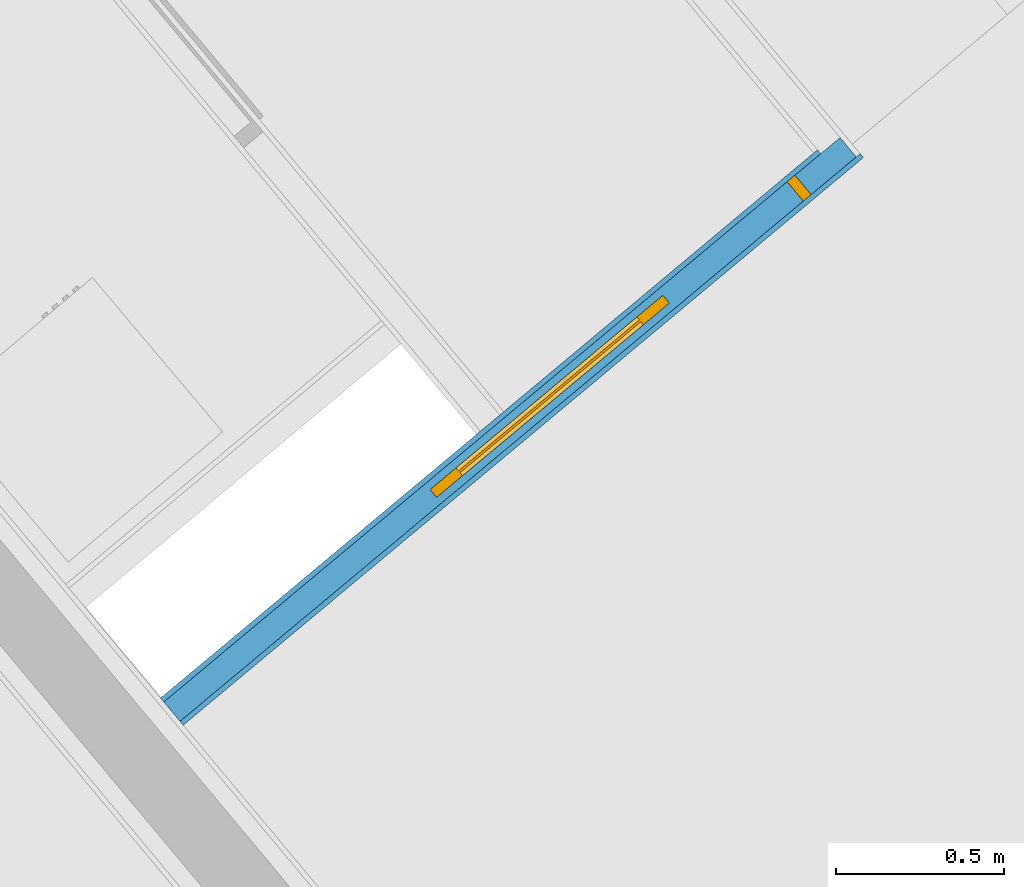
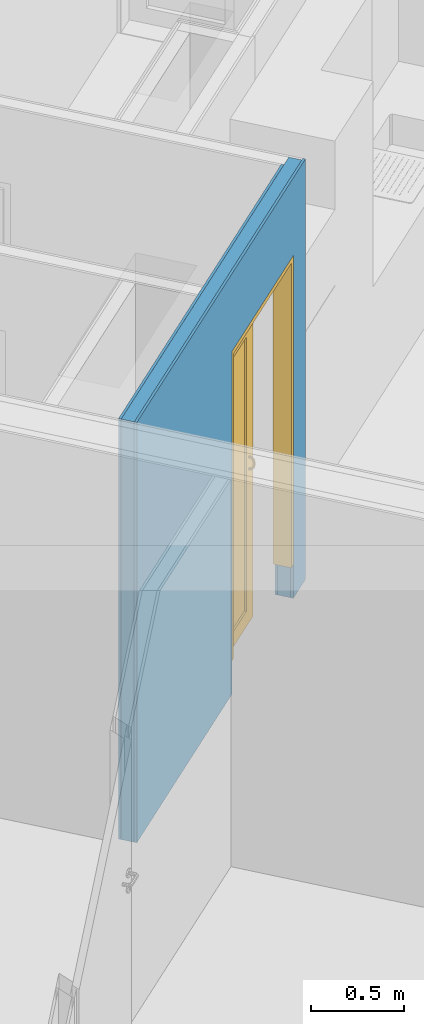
# One storey, part 14 of 53: 3 building element parts, 1 door, 1 opening, 1 element without a shape of its own.
"""IFC4 building model written with IfcOpenShell, lengths in metres."""

from ifc_helpers import new_model, entity, si_unit, converted_unit, derived_unit, direction, frame, origin_with_axes, place, context, subcontext, project, spatial, polygons, source, transform, mapped, material, type_object, element, fill, aggregate, save


model = new_model("IFC4")

# Units and contexts
model_context = context("Model", 3, precision=1e-05, world=origin_with_axes(), true_north=direction((0.0, 1.0)))
body_context = subcontext(model_context, "Body", "Model", "MODEL_VIEW")
ifc_project = project(units=[si_unit("LENGTHUNIT", "METRE"), si_unit("AREAUNIT", "SQUARE_METRE"), si_unit("VOLUMEUNIT", "CUBIC_METRE"), converted_unit("PLANEANGLEUNIT", "DEGREE", entity("IfcPlaneAngleMeasure", 0.0174532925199), si_unit("PLANEANGLEUNIT", "RADIAN"), dimensions=[0, 0, 0, 0, 0, 0, 0]), converted_unit("TIMEUNIT", "Year", entity("IfcTimeMeasure", 31556926.0), si_unit("TIMEUNIT", "SECOND"), dimensions=[0, 0, 1, 0, 0, 0, 0]), si_unit("MASSUNIT", "GRAM", prefix="KILO"), si_unit("THERMODYNAMICTEMPERATUREUNIT", "DEGREE_CELSIUS"), si_unit("LUMINOUSINTENSITYUNIT", "LUMEN"), si_unit("ENERGYUNIT", "JOULE", prefix="MEGA"), derived_unit("THERMALCONDUCTANCEUNIT", [(si_unit("POWERUNIT", "WATT"), 1), (si_unit("LENGTHUNIT", "METRE"), -1), (si_unit("THERMODYNAMICTEMPERATUREUNIT", "KELVIN"), -1)]), derived_unit("SPECIFICHEATCAPACITYUNIT", [(si_unit("ENERGYUNIT", "JOULE"), 1), (si_unit("MASSUNIT", "GRAM", prefix="KILO"), -1), (si_unit("THERMODYNAMICTEMPERATUREUNIT", "KELVIN"), -1)]), derived_unit("MASSDENSITYUNIT", [(si_unit("MASSUNIT", "GRAM", prefix="KILO"), 1), (si_unit("VOLUMEUNIT", "CUBIC_METRE"), -1)])], contexts=[model_context])

# Site, building, storey
site_placement = place(None, frame((-0.00153261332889, -0.00661245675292, 0.0), z_axis=(0.0, 0.0, 1.0), x_axis=(1.0, 0.0, 0.0)))
site = spatial("IfcSite", under=ifc_project, at=site_placement, Name="Gelände", CompositionType="ELEMENT")
building_placement = place(site_placement, origin_with_axes())
building = spatial("IfcBuilding", under=site, at=building_placement, Name="Gebäude", CompositionType="ELEMENT")
storey_placement = place(building_placement, frame((0.0, 0.0, 2.74), z_axis=(0.0, 0.0, 1.0), x_axis=(1.0, 0.0, 0.0)))
storey = spatial("IfcBuildingStorey", under=building, at=storey_placement, Name="OG1", CompositionType="ELEMENT", Elevation=2.74)

# Door
door_type = type_object("IfcDoorType", Name="Schiebetür 02 1-Fl 26", OperationType="SLIDING_TO_RIGHT", PredefinedType="NOTDEFINED")
shared_shape = source(origin_with_axes(), body_context, "Body", "Tessellation", [
    polygons([(-0.48, 0.0, 0.0), (-0.48, 0.0, 2.03), (0.48, 0.0, 2.03), (0.48, 0.0, 0.0), (0.45, 0.0, 0.0), (0.45, 0.0, 2.0), (-0.45, 0.0, 2.0), (-0.45, 0.0, 0.0)], [[[1, 2, 3, 4, 5, 6, 7, 8]]], closed=False),
    polygons([(-0.45, -0.09, 0.0), (-0.45, -0.09, 2.0), (-0.45, -0.105, 2.0), (-0.45, -0.105, 0.0), (-0.48, -0.09, 0.0), (-0.48, -0.09, 2.0), (-0.48, -0.015, 2.0), (-0.45, -0.015, 2.0), (-0.45, 0.0, 2.0), (0.45, 0.0, 2.0), (0.45, -0.105, 2.0), (0.48, -0.105, 0.0), (0.48, -0.105, 2.03), (-0.48, -0.105, 2.03), (-0.48, -0.105, 0.0), (0.45, -0.105, 0.0), (-0.48, 0.0, 2.03), (-0.48, 0.0, 0.0), (-0.48, -0.015, 0.0), (-0.45, -0.015, 0.0), (-0.45, 0.0, 0.0), (0.48, 0.0, 2.03), (0.48, 0.0, 0.0), (0.45, 0.0, 0.0)], [[[1, 2, 3, 4]], [[2, 1, 5, 6]], [[2, 6, 7, 8, 9, 10, 11, 3]], [[12, 13, 14, 15, 4, 3, 11, 16]], [[5, 1, 4, 15]], [[6, 5, 15, 14, 17, 18, 19, 7]], [[20, 8, 7, 19]], [[8, 20, 21, 9]], [[10, 9, 21, 18, 17, 22, 23, 24]], [[24, 16, 11, 10]], [[22, 13, 12, 23]], [[17, 14, 13, 22]], [[23, 12, 16, 24]], [[20, 19, 18, 21]]], closed=True),
    polygons([(-0.48, -0.105, 0.0), (-0.48, -0.105, 2.03), (0.48, -0.105, 2.03), (0.48, -0.105, 0.0), (0.45, -0.105, 0.0), (0.45, -0.105, 2.0), (-0.45, -0.105, 2.0), (-0.45, -0.105, 0.0)], [[[1, 2, 3, 4, 5, 6, 7, 8]]], closed=False),
    polygons([(-0.94995, -0.0375, 0.1), (-0.84995, -0.0375, 0.1), (-0.84995, -0.0675, 0.1), (-0.94995, -0.0675, 0.1), (-0.94995, -0.0375, 1.8999), (-0.84995, -0.0375, 1.8999), (-0.84995, -0.0675, 1.8999), (-0.94995, -0.0675, 1.8999)], [[[1, 2, 3, 4]], [[1, 5, 6, 2]], [[2, 6, 7, 3]], [[4, 3, 7, 8]], [[5, 1, 4, 8]], [[6, 5, 8, 7]]], closed=True),
    polygons([(-0.05005, -0.0375, 1.8999), (-0.15005, -0.0375, 1.8999), (-0.15005, -0.0675, 1.8999), (-0.05005, -0.0675, 1.8999), (-0.05005, -0.0375, 0.1), (-0.15005, -0.0375, 0.1), (-0.15005, -0.0675, 0.1), (-0.05005, -0.0675, 0.1)], [[[1, 2, 3, 4]], [[1, 5, 6, 2]], [[2, 6, 7, 3]], [[4, 3, 7, 8]], [[5, 1, 4, 8]], [[6, 5, 8, 7]]], closed=True),
    polygons([(-0.05005, -0.0375, 0.0), (-0.05005, -0.0375, 0.1), (-0.05005, -0.0675, 0.1), (-0.05005, -0.0675, 0.0), (-0.94995, -0.0375, 0.0), (-0.94995, -0.0375, 0.1), (-0.84995, -0.0375, 0.1), (-0.15005, -0.0375, 0.1), (-0.15005, -0.0675, 0.1), (-0.84995, -0.0675, 0.1), (-0.94995, -0.0675, 0.1), (-0.94995, -0.0675, 0.0)], [[[1, 2, 3, 4]], [[1, 5, 6, 7, 8, 2]], [[2, 8, 9, 3]], [[4, 3, 9, 10, 11, 12]], [[5, 1, 4, 12]], [[6, 5, 12, 11]], [[7, 6, 11, 10]], [[8, 7, 10, 9]]], closed=True),
    polygons([(-0.94995, -0.0375, 1.9999), (-0.94995, -0.0375, 1.8999), (-0.94995, -0.0675, 1.8999), (-0.94995, -0.0675, 1.9999), (-0.05005, -0.0375, 1.9999), (-0.05005, -0.0375, 1.8999), (-0.15005, -0.0375, 1.8999), (-0.84995, -0.0375, 1.8999), (-0.84995, -0.0675, 1.8999), (-0.15005, -0.0675, 1.8999), (-0.05005, -0.0675, 1.8999), (-0.05005, -0.0675, 1.9999)], [[[1, 2, 3, 4]], [[1, 5, 6, 7, 8, 2]], [[2, 8, 9, 3]], [[4, 3, 9, 10, 11, 12]], [[5, 1, 4, 12]], [[6, 5, 12, 11]], [[7, 6, 11, 10]], [[8, 7, 10, 9]]], closed=True),
    polygons([(-0.84995, -0.049, 0.1), (-0.15005, -0.049, 0.1), (-0.15005, -0.056, 0.1), (-0.84995, -0.056, 0.1), (-0.84995, -0.049, 1.8999), (-0.15005, -0.049, 1.8999), (-0.15005, -0.056, 1.8999), (-0.84995, -0.056, 1.8999)], [[[1, 2, 3, 4]], [[1, 5, 6, 2]], [[2, 6, 7, 3]], [[4, 3, 7, 8]], [[5, 1, 4, 8]], [[6, 5, 8, 7]]], closed=True),
    polygons([(-0.11705, -0.0825, 1.08598076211), (-0.116112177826, -0.08425, 1.08901185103), (-0.116112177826, -0.0675, 1.0935), (-0.11705, -0.0675, 1.09), (-0.11705, -0.0934807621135, 1.075), (-0.116112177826, -0.0965118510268, 1.07675), (-0.11355, -0.0855310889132, 1.09123076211), (-0.11355, -0.0675, 1.09606217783), (-0.11005, -0.0675, 1.097), (-0.10655, -0.0675, 1.09606217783), (-0.103987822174, -0.0675, 1.0935), (-0.10305, -0.0675, 1.09), (-0.103987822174, -0.0675, 1.0865), (-0.10655, -0.0675, 1.08393782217), (-0.11005, -0.0675, 1.083), (-0.11355, -0.0675, 1.08393782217), (-0.116112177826, -0.0675, 1.0865), (-0.116112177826, -0.08075, 1.0829496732), (-0.11705, -0.0975, 1.06), (-0.116112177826, -0.101, 1.06), (-0.11355, -0.0987307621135, 1.07803108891), (-0.116112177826, -0.0904496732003, 1.07325), (-0.11005, -0.086, 1.09204293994), (-0.10655, -0.0855310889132, 1.09123076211), (-0.103987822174, -0.08425, 1.08901185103), (-0.10305, -0.0825, 1.08598076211), (-0.103987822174, -0.08075, 1.0829496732), (-0.10655, -0.0794689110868, 1.08073076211), (-0.11005, -0.079, 1.07991858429), (-0.11355, -0.0794689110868, 1.08073076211), (-0.116112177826, -0.094, 1.06), (-0.11355, -0.0914378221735, 1.06), (-0.11005, -0.0905, 1.06), (-0.10655, -0.0914378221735, 1.06), (-0.103987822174, -0.094, 1.06), (-0.10305, -0.0975, 1.06), (-0.103987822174, -0.101, 1.06), (-0.10655, -0.103562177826, 1.06), (-0.11005, -0.1045, 1.06), (-0.11355, -0.103562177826, 1.06), (-0.11005, -0.09954293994, 1.0785), (-0.11355, -0.0882307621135, 1.07196891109), (-0.10655, -0.0987307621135, 1.07803108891), (-0.103987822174, -0.0965118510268, 1.07675), (-0.10305, -0.0934807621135, 1.075), (-0.103987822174, -0.0904496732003, 1.07325), (-0.10655, -0.0882307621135, 1.07196891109), (-0.11005, -0.087418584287, 1.0715)], [[[1, 2, 3, 4]], [[5, 6, 2, 1]], [[2, 7, 8, 3]], [[4, 3, 8, 9, 10, 11, 12, 13, 14, 15, 16, 17]], [[18, 1, 4, 17]], [[19, 20, 6, 5]], [[6, 21, 7, 2]], [[22, 5, 1, 18]], [[7, 23, 9, 8]], [[23, 24, 10, 9]], [[24, 25, 11, 10]], [[25, 26, 12, 11]], [[26, 27, 13, 12]], [[27, 28, 14, 13]], [[28, 29, 15, 14]], [[29, 30, 16, 15]], [[30, 18, 17, 16]], [[19, 31, 32, 33, 34, 35, 36, 37, 38, 39, 40, 20]], [[20, 40, 21, 6]], [[31, 19, 5, 22]], [[21, 41, 23, 7]], [[42, 22, 18, 30]], [[41, 43, 24, 23]], [[43, 44, 25, 24]], [[44, 45, 26, 25]], [[45, 46, 27, 26]], [[46, 47, 28, 27]], [[47, 48, 29, 28]], [[48, 42, 30, 29]], [[32, 31, 22, 42]], [[33, 32, 42, 48]], [[34, 33, 48, 47]], [[35, 34, 47, 46]], [[36, 35, 46, 45]], [[37, 36, 45, 44]], [[38, 37, 44, 43]], [[39, 38, 43, 41]], [[40, 39, 41, 21]]], closed=True),
    polygons([(-0.10305, -0.0825, 1.01401923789), (-0.103987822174, -0.08425, 1.01098814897), (-0.103987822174, -0.0675, 1.0065), (-0.10305, -0.0675, 1.01), (-0.10305, -0.0934807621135, 1.025), (-0.103987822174, -0.0965118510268, 1.02325), (-0.10655, -0.0855310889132, 1.00876923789), (-0.10655, -0.0675, 1.00393782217), (-0.11005, -0.0675, 1.003), (-0.11355, -0.0675, 1.00393782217), (-0.116112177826, -0.0675, 1.0065), (-0.11705, -0.0675, 1.01), (-0.116112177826, -0.0675, 1.0135), (-0.11355, -0.0675, 1.01606217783), (-0.11005, -0.0675, 1.017), (-0.10655, -0.0675, 1.01606217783), (-0.103987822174, -0.0675, 1.0135), (-0.103987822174, -0.08075, 1.0170503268), (-0.10305, -0.0975, 1.04), (-0.103987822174, -0.101, 1.04), (-0.10655, -0.0987307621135, 1.02196891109), (-0.103987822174, -0.0904496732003, 1.02675), (-0.11005, -0.086, 1.00795706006), (-0.11355, -0.0855310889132, 1.00876923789), (-0.116112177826, -0.08425, 1.01098814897), (-0.11705, -0.0825, 1.01401923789), (-0.116112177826, -0.08075, 1.0170503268), (-0.11355, -0.0794689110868, 1.01926923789), (-0.11005, -0.079, 1.02008141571), (-0.10655, -0.0794689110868, 1.01926923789), (-0.103987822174, -0.094, 1.04), (-0.10655, -0.0914378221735, 1.04), (-0.11005, -0.0905, 1.04), (-0.11355, -0.0914378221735, 1.04), (-0.116112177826, -0.094, 1.04), (-0.11705, -0.0975, 1.04), (-0.116112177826, -0.101, 1.04), (-0.11355, -0.103562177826, 1.04), (-0.11005, -0.1045, 1.04), (-0.10655, -0.103562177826, 1.04), (-0.11005, -0.09954293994, 1.0215), (-0.10655, -0.0882307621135, 1.02803108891), (-0.11355, -0.0987307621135, 1.02196891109), (-0.116112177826, -0.0965118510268, 1.02325), (-0.11705, -0.0934807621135, 1.025), (-0.116112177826, -0.0904496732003, 1.02675), (-0.11355, -0.0882307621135, 1.02803108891), (-0.11005, -0.087418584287, 1.0285)], [[[1, 2, 3, 4]], [[5, 6, 2, 1]], [[2, 7, 8, 3]], [[4, 3, 8, 9, 10, 11, 12, 13, 14, 15, 16, 17]], [[18, 1, 4, 17]], [[19, 20, 6, 5]], [[6, 21, 7, 2]], [[22, 5, 1, 18]], [[7, 23, 9, 8]], [[23, 24, 10, 9]], [[24, 25, 11, 10]], [[25, 26, 12, 11]], [[26, 27, 13, 12]], [[27, 28, 14, 13]], [[28, 29, 15, 14]], [[29, 30, 16, 15]], [[30, 18, 17, 16]], [[19, 31, 32, 33, 34, 35, 36, 37, 38, 39, 40, 20]], [[20, 40, 21, 6]], [[31, 19, 5, 22]], [[21, 41, 23, 7]], [[42, 22, 18, 30]], [[41, 43, 24, 23]], [[43, 44, 25, 24]], [[44, 45, 26, 25]], [[45, 46, 27, 26]], [[46, 47, 28, 27]], [[47, 48, 29, 28]], [[48, 42, 30, 29]], [[32, 31, 22, 42]], [[33, 32, 42, 48]], [[34, 33, 48, 47]], [[35, 34, 47, 46]], [[36, 35, 46, 45]], [[37, 36, 45, 44]], [[38, 37, 44, 43]], [[39, 38, 43, 41]], [[40, 39, 41, 21]]], closed=True),
    polygons([(-0.11705, -0.0975, 1.04), (-0.11705, -0.0975, 1.06), (-0.116112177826, -0.094, 1.06), (-0.116112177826, -0.094, 1.04), (-0.116112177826, -0.101, 1.04), (-0.116112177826, -0.101, 1.06), (-0.11355, -0.103562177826, 1.06), (-0.11005, -0.1045, 1.06), (-0.10655, -0.103562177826, 1.06), (-0.103987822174, -0.101, 1.06), (-0.10305, -0.0975, 1.06), (-0.103987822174, -0.094, 1.06), (-0.10655, -0.0914378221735, 1.06), (-0.11005, -0.0905, 1.06), (-0.11355, -0.0914378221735, 1.06), (-0.11355, -0.0914378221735, 1.04), (-0.11005, -0.0905, 1.04), (-0.10655, -0.0914378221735, 1.04), (-0.103987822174, -0.094, 1.04), (-0.10305, -0.0975, 1.04), (-0.103987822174, -0.101, 1.04), (-0.10655, -0.103562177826, 1.04), (-0.11005, -0.1045, 1.04), (-0.11355, -0.103562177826, 1.04)], [[[1, 2, 3, 4]], [[5, 6, 2, 1]], [[2, 6, 7, 8, 9, 10, 11, 12, 13, 14, 15, 3]], [[4, 3, 15, 16]], [[1, 4, 16, 17, 18, 19, 20, 21, 22, 23, 24, 5]], [[24, 7, 6, 5]], [[23, 8, 7, 24]], [[22, 9, 8, 23]], [[21, 10, 9, 22]], [[20, 11, 10, 21]], [[19, 12, 11, 20]], [[18, 13, 12, 19]], [[17, 14, 13, 18]], [[16, 15, 14, 17]]], closed=True),
    polygons([(-0.11705, -0.0225, 1.08598076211), (-0.11705, -0.0375, 1.09), (-0.116112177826, -0.0375, 1.0935), (-0.116112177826, -0.02075, 1.08901185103), (-0.116112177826, -0.02425, 1.0829496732), (-0.116112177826, -0.0375, 1.0865), (-0.11355, -0.0375, 1.08393782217), (-0.11005, -0.0375, 1.083), (-0.10655, -0.0375, 1.08393782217), (-0.103987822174, -0.0375, 1.0865), (-0.10305, -0.0375, 1.09), (-0.103987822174, -0.0375, 1.0935), (-0.10655, -0.0375, 1.09606217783), (-0.11005, -0.0375, 1.097), (-0.11355, -0.0375, 1.09606217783), (-0.11355, -0.0194689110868, 1.09123076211), (-0.11705, -0.0115192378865, 1.075), (-0.116112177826, -0.00848814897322, 1.07675), (-0.11355, -0.0255310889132, 1.08073076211), (-0.116112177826, -0.0145503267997, 1.07325), (-0.11005, -0.026, 1.07991858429), (-0.10655, -0.0255310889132, 1.08073076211), (-0.103987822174, -0.02425, 1.0829496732), (-0.10305, -0.0225, 1.08598076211), (-0.103987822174, -0.02075, 1.08901185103), (-0.10655, -0.0194689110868, 1.09123076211), (-0.11005, -0.019, 1.09204293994), (-0.11355, -0.00626923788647, 1.07803108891), (-0.11705, -0.0075, 1.06), (-0.116112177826, -0.004, 1.06), (-0.11355, -0.0167692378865, 1.07196891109), (-0.116112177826, -0.011, 1.06), (-0.11005, -0.017581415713, 1.0715), (-0.10655, -0.0167692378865, 1.07196891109), (-0.103987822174, -0.0145503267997, 1.07325), (-0.10305, -0.0115192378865, 1.075), (-0.103987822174, -0.00848814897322, 1.07675), (-0.10655, -0.00626923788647, 1.07803108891), (-0.11005, -0.00545706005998, 1.0785), (-0.11355, -0.00143782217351, 1.06), (-0.11005, -0.0005, 1.06), (-0.10655, -0.00143782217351, 1.06), (-0.103987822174, -0.004, 1.06), (-0.10305, -0.0075, 1.06), (-0.103987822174, -0.011, 1.06), (-0.10655, -0.0135621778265, 1.06), (-0.11005, -0.0145, 1.06), (-0.11355, -0.0135621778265, 1.06)], [[[1, 2, 3, 4]], [[5, 6, 2, 1]], [[2, 6, 7, 8, 9, 10, 11, 12, 13, 14, 15, 3]], [[4, 3, 15, 16]], [[17, 1, 4, 18]], [[19, 7, 6, 5]], [[20, 5, 1, 17]], [[21, 8, 7, 19]], [[22, 9, 8, 21]], [[23, 10, 9, 22]], [[24, 11, 10, 23]], [[25, 12, 11, 24]], [[26, 13, 12, 25]], [[27, 14, 13, 26]], [[16, 15, 14, 27]], [[18, 4, 16, 28]], [[29, 17, 18, 30]], [[31, 19, 5, 20]], [[32, 20, 17, 29]], [[33, 21, 19, 31]], [[34, 22, 21, 33]], [[35, 23, 22, 34]], [[36, 24, 23, 35]], [[37, 25, 24, 36]], [[38, 26, 25, 37]], [[39, 27, 26, 38]], [[28, 16, 27, 39]], [[30, 18, 28, 40]], [[29, 30, 40, 41, 42, 43, 44, 45, 46, 47, 48, 32]], [[48, 31, 20, 32]], [[47, 33, 31, 48]], [[46, 34, 33, 47]], [[45, 35, 34, 46]], [[44, 36, 35, 45]], [[43, 37, 36, 44]], [[42, 38, 37, 43]], [[41, 39, 38, 42]], [[40, 28, 39, 41]]], closed=True),
    polygons([(-0.10305, -0.0225, 1.01401923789), (-0.10305, -0.0375, 1.01), (-0.103987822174, -0.0375, 1.0065), (-0.103987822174, -0.02075, 1.01098814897), (-0.103987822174, -0.02425, 1.0170503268), (-0.103987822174, -0.0375, 1.0135), (-0.10655, -0.0375, 1.01606217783), (-0.11005, -0.0375, 1.017), (-0.11355, -0.0375, 1.01606217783), (-0.116112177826, -0.0375, 1.0135), (-0.11705, -0.0375, 1.01), (-0.116112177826, -0.0375, 1.0065), (-0.11355, -0.0375, 1.00393782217), (-0.11005, -0.0375, 1.003), (-0.10655, -0.0375, 1.00393782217), (-0.10655, -0.0194689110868, 1.00876923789), (-0.10305, -0.0115192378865, 1.025), (-0.103987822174, -0.00848814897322, 1.02325), (-0.10655, -0.0255310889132, 1.01926923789), (-0.103987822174, -0.0145503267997, 1.02675), (-0.11005, -0.026, 1.02008141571), (-0.11355, -0.0255310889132, 1.01926923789), (-0.116112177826, -0.02425, 1.0170503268), (-0.11705, -0.0225, 1.01401923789), (-0.116112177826, -0.02075, 1.01098814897), (-0.11355, -0.0194689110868, 1.00876923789), (-0.11005, -0.019, 1.00795706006), (-0.10655, -0.00626923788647, 1.02196891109), (-0.10305, -0.0075, 1.04), (-0.103987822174, -0.004, 1.04), (-0.10655, -0.0167692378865, 1.02803108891), (-0.103987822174, -0.011, 1.04), (-0.11005, -0.017581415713, 1.0285), (-0.11355, -0.0167692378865, 1.02803108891), (-0.116112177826, -0.0145503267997, 1.02675), (-0.11705, -0.0115192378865, 1.025), (-0.116112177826, -0.00848814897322, 1.02325), (-0.11355, -0.00626923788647, 1.02196891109), (-0.11005, -0.00545706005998, 1.0215), (-0.10655, -0.00143782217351, 1.04), (-0.11005, -0.0005, 1.04), (-0.11355, -0.00143782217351, 1.04), (-0.116112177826, -0.004, 1.04), (-0.11705, -0.0075, 1.04), (-0.116112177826, -0.011, 1.04), (-0.11355, -0.0135621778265, 1.04), (-0.11005, -0.0145, 1.04), (-0.10655, -0.0135621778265, 1.04)], [[[1, 2, 3, 4]], [[5, 6, 2, 1]], [[2, 6, 7, 8, 9, 10, 11, 12, 13, 14, 15, 3]], [[4, 3, 15, 16]], [[17, 1, 4, 18]], [[19, 7, 6, 5]], [[20, 5, 1, 17]], [[21, 8, 7, 19]], [[22, 9, 8, 21]], [[23, 10, 9, 22]], [[24, 11, 10, 23]], [[25, 12, 11, 24]], [[26, 13, 12, 25]], [[27, 14, 13, 26]], [[16, 15, 14, 27]], [[18, 4, 16, 28]], [[29, 17, 18, 30]], [[31, 19, 5, 20]], [[32, 20, 17, 29]], [[33, 21, 19, 31]], [[34, 22, 21, 33]], [[35, 23, 22, 34]], [[36, 24, 23, 35]], [[37, 25, 24, 36]], [[38, 26, 25, 37]], [[39, 27, 26, 38]], [[28, 16, 27, 39]], [[30, 18, 28, 40]], [[29, 30, 40, 41, 42, 43, 44, 45, 46, 47, 48, 32]], [[48, 31, 20, 32]], [[47, 33, 31, 48]], [[46, 34, 33, 47]], [[45, 35, 34, 46]], [[44, 36, 35, 45]], [[43, 37, 36, 44]], [[42, 38, 37, 43]], [[41, 39, 38, 42]], [[40, 28, 39, 41]]], closed=True),
    polygons([(-0.11705, -0.0075, 1.04), (-0.116112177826, -0.011, 1.04), (-0.116112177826, -0.011, 1.06), (-0.11705, -0.0075, 1.06), (-0.116112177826, -0.004, 1.04), (-0.11355, -0.00143782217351, 1.04), (-0.11005, -0.0005, 1.04), (-0.10655, -0.00143782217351, 1.04), (-0.103987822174, -0.004, 1.04), (-0.10305, -0.0075, 1.04), (-0.103987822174, -0.011, 1.04), (-0.10655, -0.0135621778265, 1.04), (-0.11005, -0.0145, 1.04), (-0.11355, -0.0135621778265, 1.04), (-0.11355, -0.0135621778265, 1.06), (-0.11005, -0.0145, 1.06), (-0.10655, -0.0135621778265, 1.06), (-0.103987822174, -0.011, 1.06), (-0.10305, -0.0075, 1.06), (-0.103987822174, -0.004, 1.06), (-0.10655, -0.00143782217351, 1.06), (-0.11005, -0.0005, 1.06), (-0.11355, -0.00143782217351, 1.06), (-0.116112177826, -0.004, 1.06)], [[[1, 2, 3, 4]], [[1, 5, 6, 7, 8, 9, 10, 11, 12, 13, 14, 2]], [[2, 14, 15, 3]], [[4, 3, 15, 16, 17, 18, 19, 20, 21, 22, 23, 24]], [[5, 1, 4, 24]], [[6, 5, 24, 23]], [[7, 6, 23, 22]], [[8, 7, 22, 21]], [[9, 8, 21, 20]], [[10, 9, 20, 19]], [[11, 10, 19, 18]], [[12, 11, 18, 17]], [[13, 12, 17, 16]], [[14, 13, 16, 15]]], closed=True),
])
wall_placement = place(storey_placement, frame((4.75634479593, 20.7201278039, 0.0), z_axis=(0.0, 0.0, 1.0), x_axis=(0.767768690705, 0.640727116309, 0.0)))
opening_placement = place(wall_placement, frame((2.0266659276, 0.0, 0.22), z_axis=(0.0, 0.0, 1.0), x_axis=(1.0, 0.0, 0.0)))
door_placement = place(opening_placement, frame((-0.45, 0.0, 0.0), z_axis=(0.0, 0.0, 1.0), x_axis=(1.0, 0.0, 0.0)))
door = element("IfcDoor", 1, at=door_placement, inside=storey, type_object=door_type, Name="Tür-001", OverallHeight=2.25, OverallWidth=0.96, PredefinedType="NOTDEFINED", context=body_context, shape_type="MappedRepresentation", body=[
    mapped(shared_shape, transform((0.45, 0.105, 0.0))),
])

# Wall, opening
wall_type = type_object("IfcWallType", Name="IW LB 01 Leichtbautrennwand einfach 10,5 cm 105", PredefinedType="NOTDEFINED")
wall = element("IfcWall", 2, at=wall_placement, inside=storey, type_object=wall_type, Name="Wand-012", PredefinedType="NOTDEFINED")
opening = element("IfcOpeningElement", 3, at=opening_placement, cuts=wall, Name="Tür-001", context=body_context, identifier="Reference", shape_type="Tessellation", body=[
    polygons([(-0.48, -1.32747549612, -0.22), (-0.48, -1.32747549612, 2.03), (-0.48, 1.43247549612, 2.03), (-0.48, 1.43247549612, -0.22), (-0.48, 0.09, 2.0), (-0.48, 0.015, 2.0), (-0.48, 0.015, 0.0), (-0.48, 0.09, 0.0), (0.48, -1.32747549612, -0.22), (0.48, -1.32747549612, 2.03), (0.48, 1.43247549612, 2.03), (0.48, 1.43247549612, -0.22), (-1.44, 0.09, 2.0), (-1.44, 0.015, 2.0), (-1.44, 0.015, 0.0), (-1.44, 0.09, 0.0)], [[[1, 2, 3, 4], [5, 6, 7, 8]], [[1, 9, 10, 2]], [[2, 10, 11, 3]], [[11, 12, 4, 3]], [[9, 1, 4, 12]], [[6, 5, 13, 14]], [[7, 6, 14, 15]], [[8, 7, 15, 16]], [[5, 8, 16, 13]], [[10, 9, 12, 11]], [[14, 13, 16, 15]]], closed=True),
])

fill(opening, door)

# Building element part
ifc_material_1 = material(Name="Gipskarton")
building_element_part_1_placement = place(wall_placement, origin_with_axes())
building_element_part_1 = element("IfcBuildingElementPart", 4, at=building_element_part_1_placement, material=ifc_material_1, Name="Gipskarton", PredefinedType="NOTDEFINED", context=body_context, shape_type="Tessellation", body=[
    polygons([(1.5466659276, 0.09, 0.22), (1.5466659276, 0.09, 2.25), (2.5066659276, 0.09, 2.25), (2.5066659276, 0.09, 0.22), (2.50666590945, 0.09, 0.0), (2.6064142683, 0.09, 0.0), (2.6064142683, 0.09, 2.76), (0.0649861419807, 0.09, 2.76), (0.06498614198, 0.09, 0.0), (1.5466659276, 0.09, 0.0), (1.5466659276, 0.104999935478, 0.22), (1.5466659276, 0.104999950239, 2.25), (2.5066659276, 0.104999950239, 2.25), (2.5066659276, 0.104999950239, 0.22), (2.5066659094, 0.104999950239, 0.0), (2.60640484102, 0.105, 0.0), (2.60640484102, 0.105, 2.76), (0.0649838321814, 0.105, 2.76), (0.0649838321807, 0.105, 0.0), (1.5466659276, 0.104999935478, 0.0)], [[[1, 2, 3, 4, 5, 6, 7, 8, 9, 10]], [[2, 1, 11, 12]], [[3, 2, 12, 13]], [[4, 3, 13, 14]], [[4, 14, 15, 5]], [[15, 16, 6, 5]], [[17, 7, 6, 16]], [[18, 8, 7, 17]], [[9, 8, 18, 19]], [[10, 9, 19, 20]], [[11, 1, 10, 20]], [[12, 11, 20, 19, 18, 17, 16, 15, 14, 13]]], closed=True),
])

ifc_material_2 = material(Name="Mineralwolle weich")
building_element_part_2_placement = place(wall_placement, origin_with_axes())
building_element_part_2 = element("IfcBuildingElementPart", 5, at=building_element_part_2_placement, material=ifc_material_2, Name="Mineralwolle weich", PredefinedType="NOTDEFINED", context=body_context, shape_type="Tessellation", body=[
    polygons([(0.586665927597, 0.015, 0.22), (0.586665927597, 0.015, 2.22), (1.5466659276, 0.015, 2.22), (1.5466659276, 0.015, 2.25), (2.5066659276, 0.015, 2.25), (2.5066659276, 0.015, 0.22), (2.5066659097, 0.015, 0.0), (2.68146141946, 0.015, 0.0), (2.68146141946, 0.015, 2.76), (0.0649976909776, 0.015, 2.76), (0.0649976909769, 0.015, 0.0), (1.5466659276, 0.015, 0.0), (1.5466659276, 0.015, 0.22), (0.586665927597, 0.09, 0.22), (0.586665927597, 0.09, 2.22), (1.5466659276, 0.09, 2.22), (1.5466659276, 0.09, 2.25), (2.5066659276, 0.09, 2.25), (2.5066659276, 0.09, 0.22), (2.50666590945, 0.09, 0.0), (2.68141428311, 0.09, 0.0), (2.68141428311, 0.09, 2.76), (0.0649861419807, 0.09, 2.76), (0.06498614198, 0.09, 0.0), (1.5466659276, 0.09, 0.0), (1.5466659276, 0.09, 0.22)], [[[1, 2, 3, 4, 5, 6, 7, 8, 9, 10, 11, 12, 13]], [[2, 1, 14, 15]], [[16, 3, 2, 15]], [[3, 16, 17, 4]], [[4, 17, 18, 5]], [[5, 18, 19, 6]], [[19, 20, 7, 6]], [[21, 8, 7, 20]], [[9, 8, 21, 22]], [[10, 9, 22, 23]], [[10, 23, 24, 11]], [[11, 24, 25, 12]], [[26, 13, 12, 25]], [[1, 13, 26, 14]], [[14, 26, 25, 24, 23, 22, 21, 20, 19, 18, 17, 16, 15]]], closed=True),
])

building_element_part_3_placement = place(wall_placement, origin_with_axes())
building_element_part_3 = element("IfcBuildingElementPart", 6, at=building_element_part_3_placement, material=ifc_material_1, Name="Gipskarton", PredefinedType="NOTDEFINED", context=body_context, shape_type="Tessellation", body=[
    polygons([(1.5466659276, 0.0, 0.22), (1.5466659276, 0.0, 2.25), (2.5066659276, 0.0, 2.25), (2.5066659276, 0.0, 0.22), (2.50666590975, 0.0, 0.0), (2.6964708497, 0.0, 0.0), (2.6964708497, 0.0, 2.76), (0.065000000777, 0.0, 2.76), (0.0650000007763, 0.0, 0.0), (1.5466659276, 0.0, 0.0), (1.5466659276, 0.015, 0.22), (1.5466659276, 0.015, 2.25), (2.5066659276, 0.015, 2.25), (2.5066659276, 0.015, 0.22), (2.5066659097, 0.015, 0.0), (2.69646142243, 0.015, 0.0), (2.69646142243, 0.015, 2.76), (0.0649976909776, 0.015, 2.76), (0.0649976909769, 0.015, 0.0), (1.5466659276, 0.015, 0.0)], [[[1, 2, 3, 4, 5, 6, 7, 8, 9, 10]], [[2, 1, 11, 12]], [[3, 2, 12, 13]], [[4, 3, 13, 14]], [[4, 14, 15, 5]], [[15, 16, 6, 5]], [[17, 7, 6, 16]], [[18, 8, 7, 17]], [[9, 8, 18, 19]], [[10, 9, 19, 20]], [[11, 1, 10, 20]], [[12, 11, 20, 19, 18, 17, 16, 15, 14, 13]]], closed=True),
])

aggregate(wall, [building_element_part_1, building_element_part_2, building_element_part_3])

save(model, "model.ifc")
